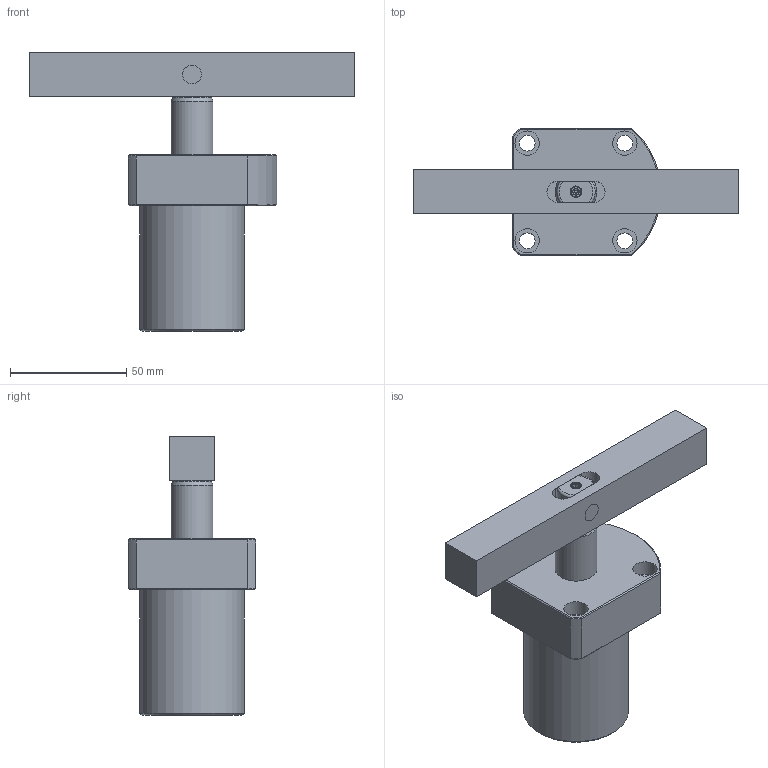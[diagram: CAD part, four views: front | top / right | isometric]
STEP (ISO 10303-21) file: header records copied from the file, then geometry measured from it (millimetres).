
FILE_DESCRIPTION(/* description */ ('Unknown'),/* implementation_level */ '2;1');
FILE_NAME(/* name */ 'HSC-FAM25D-B',/* time_stamp */ '2019-05-20T16:14:08+08:00',/* author */ ('Unknown'),/* organization */ ('Unknown'),/* preprocessor_version */ 'ST-DEVELOPER v16.7',/* originating_system */ 'DEX',/* authorisation */ $);
FILE_SCHEMA (('AUTOMOTIVE_DESIGN {1 0 10303 214 3 1 1}'));
Length unit declared in the file: millimetre
Products named in the file (5): HSC-FAM25D-B; HSC-FAM25D-CYLINDER; HSC-2502-D-AXLE CENTRE; HSC-2502-D-FIXED PIN; HSC-25D-B
Assembly tree (4 placements, depth 2):
  HSC-FAM25D-B
    HSC-FAM25D-CYLINDER
    HSC-2502-D-AXLE CENTRE
    HSC-2502-D-FIXED PIN
    HSC-25D-B
Bounding box: 140 x 55 x 120 mm (x, y, z)
Volume: 197915.6 mm3; surface area: 44034 mm2
Topology: 4 solids, 4 shells, 113 faces, 230 edges, 143 vertices
Faces by surface type: plane 51, cylinder 30, cone 16, bspline 12, torus 4
Full cylindrical faces by diameter (mm): 2.5 x2, 4.1 x2, 6.8 x4, 8 x4, 9 x2, 10.5 x4, 18 x1, 18.001 x1, 24.601 x1, 25 x1, 45 x1
Entity records: 2947 total; most frequent: CARTESIAN_POINT 674, DIRECTION 450, ORIENTED_EDGE 364, AXIS2_PLACEMENT_3D 196, EDGE_CURVE 182, EDGE_LOOP 182, FACE_BOUND 182, VERTEX_POINT 130
